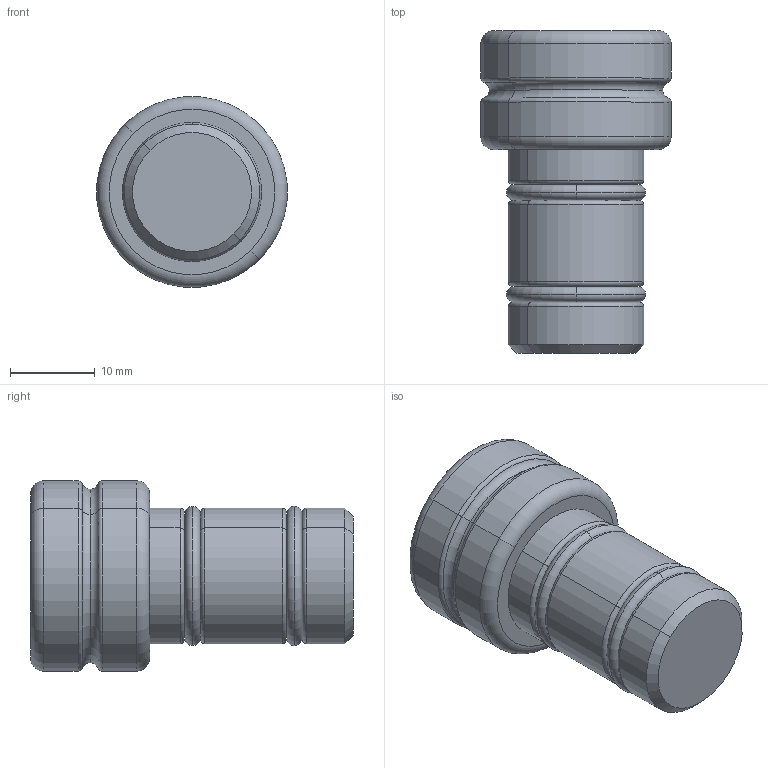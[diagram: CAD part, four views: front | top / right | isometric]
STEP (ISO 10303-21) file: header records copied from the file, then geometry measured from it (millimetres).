
FILE_DESCRIPTION (( 'STEP AP203' ), '1' );
FILE_NAME ('160540.step', '2014-08-11T16:04:40', ( 'User' ), ( '' ), 'SwSTEP 2.0', 'SolidWorks 2014', '' );
FILE_SCHEMA (( 'CONFIG_CONTROL_DESIGN' ));
Length unit declared in the file: millimetre
Products named in the file (3): O-Ring^160540; 160540 Absteckbolzen^160540_Detailliert; 160540
Assembly tree (2 placements, depth 2):
  160540
    160540 Absteckbolzen^160540_Detailliert
    O-Ring^160540
Bounding box: 22.41 x 38 x 22.41 mm (x, y, z)
Volume: 10178.5 mm3; surface area: 3579.2 mm2
Topology: 3 solids, 3 shells, 59 faces, 116 edges, 64 vertices
Faces by surface type: torus 36, cylinder 14, plane 7, cone 2
Entity records: 1841 total; most frequent: DIRECTION 344, CARTESIAN_POINT 244, ORIENTED_EDGE 232, AXIS2_PLACEMENT_3D 164, EDGE_CURVE 116, CIRCLE 100, VERTEX_POINT 64, EDGE_LOOP 64
